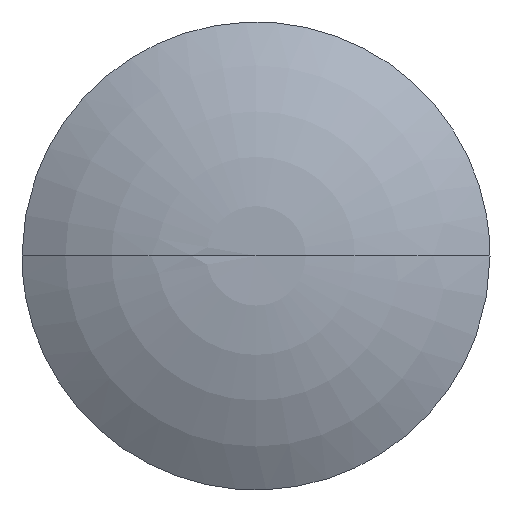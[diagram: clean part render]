
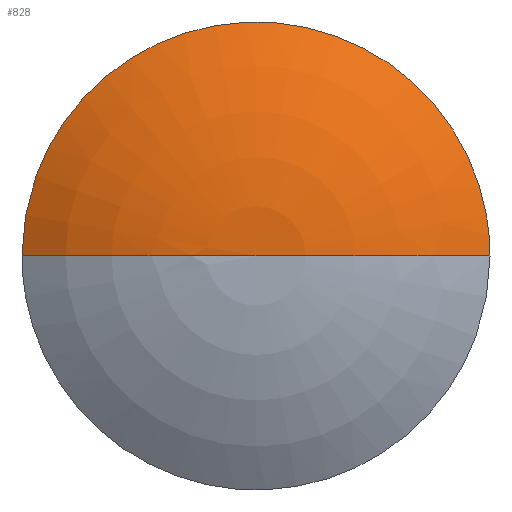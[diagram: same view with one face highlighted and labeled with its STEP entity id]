
A CAD part, top view. The second image highlights one B-rep face of the part: STEP entity #828.
In plain terms, the highlighted toroidal (fillet/blend) face has major radius 0.624 mm and minor radius 9.398 mm.
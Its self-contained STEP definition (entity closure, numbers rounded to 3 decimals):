
#2 = CARTESIAN_POINT ( 'NONE',  ( -0.754, 5.75, 0. ) ) ;
#3 = DIRECTION ( 'NONE',  ( 0., 0., 1. ) ) ;
#10 = CARTESIAN_POINT ( 'NONE',  ( 3.972, 0., 0.962 ) ) ;
#74 = ORIENTED_EDGE ( 'NONE', *, *, #547, .F. ) ;
#83 = CARTESIAN_POINT ( 'NONE',  ( -1.005, 0., 1.567 ) ) ;
#85 = CARTESIAN_POINT ( 'NONE',  ( 4.905, 0., 0.55 ) ) ;
#88 = CARTESIAN_POINT ( 'NONE',  ( 5.75, 0., 0. ) ) ;
#99 = EDGE_CURVE ( 'NONE', #934, #859, #527, .T. ) ;
#100 = ORIENTED_EDGE ( 'NONE', *, *, #99, .F. ) ;
#151 = CARTESIAN_POINT ( 'NONE',  ( 5.566, 1.492, 0. ) ) ;
#152 = FACE_OUTER_BOUND ( 'NONE', #928, .T. ) ;
#153 = VERTEX_POINT ( 'NONE', #791 ) ;
#156 = CARTESIAN_POINT ( 'NONE',  ( -5.75, 0., 0. ) ) ;
#192 = CARTESIAN_POINT ( 'NONE',  ( -5.75, 0., 0. ) ) ;
#221 = CARTESIAN_POINT ( 'NONE',  ( -5.024, 2.897, 0. ) ) ;
#234 = CARTESIAN_POINT ( 'NONE',  ( 5.75, 0., 0. ) ) ;
#238 = CARTESIAN_POINT ( 'NONE',  ( 0.754, 5.75, 0. ) ) ;
#300 = CARTESIAN_POINT ( 'NONE',  ( 5.457, 1.852, 0. ) ) ;
#313 = CARTESIAN_POINT ( 'NONE',  ( 0., 0., 1.5 ) ) ;
#322 = DIRECTION ( 'NONE',  ( 1., 0., 0. ) ) ;
#396 = CARTESIAN_POINT ( 'NONE',  ( -4.905, 0., 0.55 ) ) ;
#454 = CARTESIAN_POINT ( 'NONE',  ( -3.532, 4.599, 0. ) ) ;
#471 = CARTESIAN_POINT ( 'NONE',  ( -1.504, 5.601, 0. ) ) ;
#527 = B_SPLINE_CURVE_WITH_KNOTS ( 'NONE', 3,
 ( #605, #682, #769, #221, #531, #454, #528, #471, #2, #238, #915, #764, #759, #841, #550, #300, #151, #617, #776, #88 ),
 .UNSPECIFIED., .F., .F.,
 ( 4, 2, 2, 2, 2, 2, 2, 2, 2, 4 ),
 ( 0., 0.125, 0.25, 0.375, 0.5, 0.625, 0.75, 0.875, 0.938, 1. ),
 .UNSPECIFIED. ) ;
#528 = CARTESIAN_POINT ( 'NONE',  ( -2.897, 5.024, 0. ) ) ;
#531 = CARTESIAN_POINT ( 'NONE',  ( -4.599, 3.532, 0. ) ) ;
#547 = EDGE_CURVE ( 'NONE', #859, #153, #726, .T. ) ;
#550 = CARTESIAN_POINT ( 'NONE',  ( 5.024, 2.897, 0. ) ) ;
#605 = CARTESIAN_POINT ( 'NONE',  ( -5.75, 0., 0. ) ) ;
#606 = CARTESIAN_POINT ( 'NONE',  ( 0., 0., -7.877 ) ) ;
#617 = CARTESIAN_POINT ( 'NONE',  ( 5.713, 0.752, 0. ) ) ;
#657 = B_SPLINE_CURVE_WITH_KNOTS ( 'NONE', 3,
 ( #683, #83, #770, #760, #396, #156 ),
 .UNSPECIFIED., .F., .F.,
 ( 4, 2, 4 ),
 ( 0., 0.5, 1. ),
 .UNSPECIFIED. ) ;
#682 = CARTESIAN_POINT ( 'NONE',  ( -5.75, 0.755, 0. ) ) ;
#683 = CARTESIAN_POINT ( 'NONE',  ( 0., 0., 1.5 ) ) ;
#691 = CARTESIAN_POINT ( 'NONE',  ( 1.005, 0., 1.567 ) ) ;
#726 = B_SPLINE_CURVE_WITH_KNOTS ( 'NONE', 3,
 ( #772, #85, #10, #929, #691, #313 ),
 .UNSPECIFIED., .F., .F.,
 ( 4, 2, 4 ),
 ( 0., 0.5, 1. ),
 .UNSPECIFIED. ) ;
#759 = CARTESIAN_POINT ( 'NONE',  ( 3.532, 4.599, 0. ) ) ;
#760 = CARTESIAN_POINT ( 'NONE',  ( -3.972, 0., 0.962 ) ) ;
#764 = CARTESIAN_POINT ( 'NONE',  ( 2.897, 5.024, 0. ) ) ;
#766 = ORIENTED_EDGE ( 'NONE', *, *, #806, .F. ) ;
#769 = CARTESIAN_POINT ( 'NONE',  ( -5.601, 1.503, 0. ) ) ;
#770 = CARTESIAN_POINT ( 'NONE',  ( -2.022, 0., 1.471 ) ) ;
#772 = CARTESIAN_POINT ( 'NONE',  ( 5.75, 0., 0. ) ) ;
#776 = CARTESIAN_POINT ( 'NONE',  ( 5.75, 0.378, 0. ) ) ;
#791 = CARTESIAN_POINT ( 'NONE',  ( 0., 0., 1.5 ) ) ;
#806 = EDGE_CURVE ( 'NONE', #153, #934, #657, .T. ) ;
#828 = ADVANCED_FACE ( 'NONE', ( #152 ), #930, .T. ) ;
#839 = AXIS2_PLACEMENT_3D ( 'NONE', #606, #3, #322 ) ;
#841 = CARTESIAN_POINT ( 'NONE',  ( 4.599, 3.532, 0. ) ) ;
#859 = VERTEX_POINT ( 'NONE', #234 ) ;
#915 = CARTESIAN_POINT ( 'NONE',  ( 1.503, 5.601, 0. ) ) ;
#928 = EDGE_LOOP ( 'NONE', ( #74, #100, #766 ) ) ;
#929 = CARTESIAN_POINT ( 'NONE',  ( 2.022, 0., 1.471 ) ) ;
#930 = TOROIDAL_SURFACE ( 'NONE', #839, 0.624, 9.398 ) ;
#934 = VERTEX_POINT ( 'NONE', #192 ) ;
